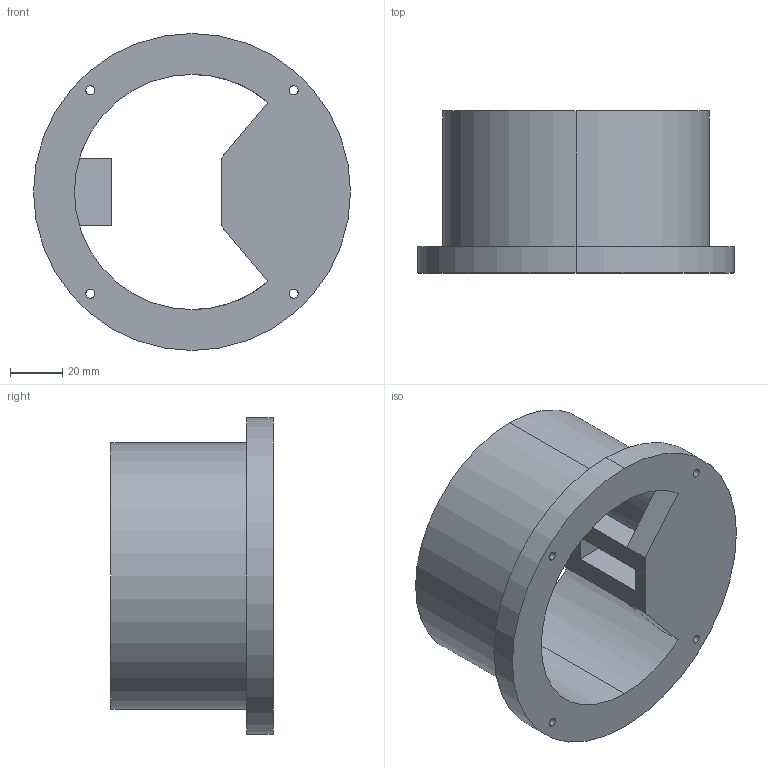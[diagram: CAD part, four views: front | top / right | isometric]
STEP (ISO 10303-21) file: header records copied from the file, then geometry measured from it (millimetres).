
FILE_DESCRIPTION (( 'STEP AP203' ), '1' );
FILE_NAME ('Base.STEP', '2021-09-16T07:07:47', ( '' ), ( '' ), 'SwSTEP 2.0', 'SolidWorks 2019', '' );
FILE_SCHEMA (( 'CONFIG_CONTROL_DESIGN' ));
Length unit declared in the file: millimetre
Products named in the file (1): Base
Bounding box: 121.25 x 62 x 121.25 mm (x, y, z)
Volume: 176591.6 mm3; surface area: 56243.6 mm2
Topology: 1 solids, 1 shells, 59 faces, 144 edges, 92 vertices
Faces by surface type: plane 27, cylinder 24, cone 8
Entity records: 1897 total; most frequent: CARTESIAN_POINT 360, DIRECTION 319, ORIENTED_EDGE 288, EDGE_CURVE 144, AXIS2_PLACEMENT_3D 119, VERTEX_POINT 92, LINE 81, VECTOR 81
